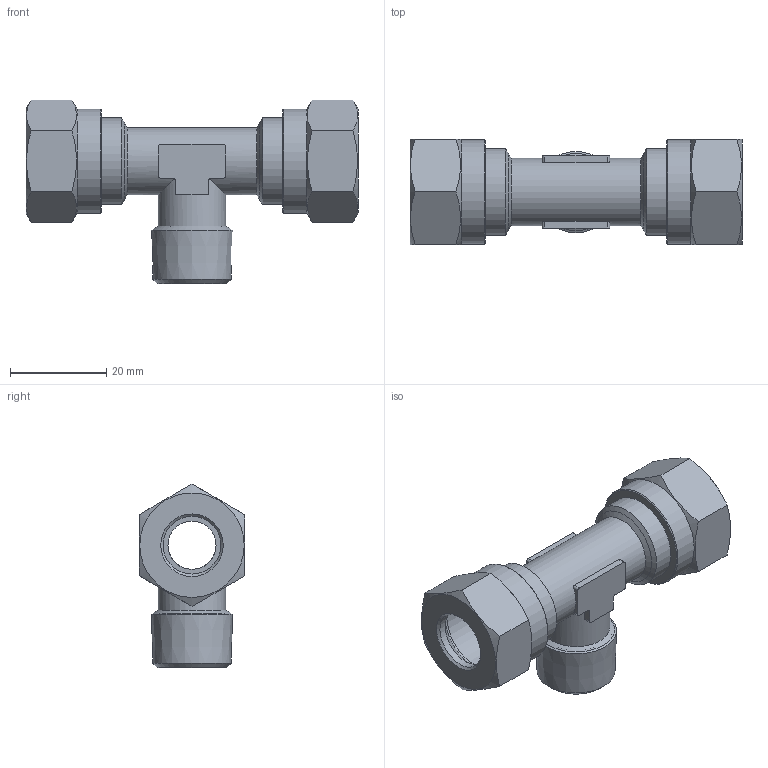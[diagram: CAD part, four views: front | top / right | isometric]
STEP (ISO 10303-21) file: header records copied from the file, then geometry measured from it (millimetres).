
FILE_DESCRIPTION(('Bauteilbeschreibung','HiCAD-Model','HiCAD-STEP-TRANSLATION','Bauteilbeschreibung'),'2;1');
FILE_NAME('B:/ABGLEICH/ZEICHNUNGEN/STEP FÜR INTERNET/STEP/207/92210_207_12_3-8.STP','2011-10-18T16:02:52+00:00',('Konstrukteur'),('Konstrukteur Firma GmbH'),' HiCAD neXt 2008, Step 3.1.1401.2J ','HiCAD neXt 2008','confidential');
FILE_SCHEMA(('AUTOMOTIVE_DESIGN { 1 2 10303 214 0 1 1 1 }'));
Length unit declared in the file: millimetre
Products named in the file (12): A2210_207_12_3_8; A2210; A22100; DIN 13_M18X1_5; DIN0130M18X105; R 3_8; A6805; A68050; DIN0130M18X1050; A68051; A68052; DIN0130M18X1051
Assembly tree (11 placements, depth 3):
  A2210_207_12_3_8
    A2210
    A22100
      DIN 13_M18X1_5
      DIN0130M18X105
      R 3_8
    A6805
    A68050
      DIN0130M18X1050
    A68051
    A68052
      DIN0130M18X1051
Bounding box: 69 x 22 x 38.2 mm (x, y, z)
Volume: 13299.3 mm3; surface area: 16270.3 mm2
Topology: 8 solids, 8 shells, 119 faces, 289 edges, 185 vertices
Faces by surface type: plane 47, cylinder 41, cone 31
Full cylindrical faces by diameter (mm): 10 x2, 11 x1, 12 x4, 14 x2, 16.16 x8, 18 x6, 21.7 x2
Entity records: 6964 total; most frequent: CARTESIAN_POINT 3270, DIRECTION 544, ORIENTED_EDGE 420, AXIS2_PLACEMENT_3D 237, EDGE_CURVE 210, COLOUR_RGB 198, PRESENTATION_STYLE_ASSIGNMENT 198, EDGE_LOOP 194
